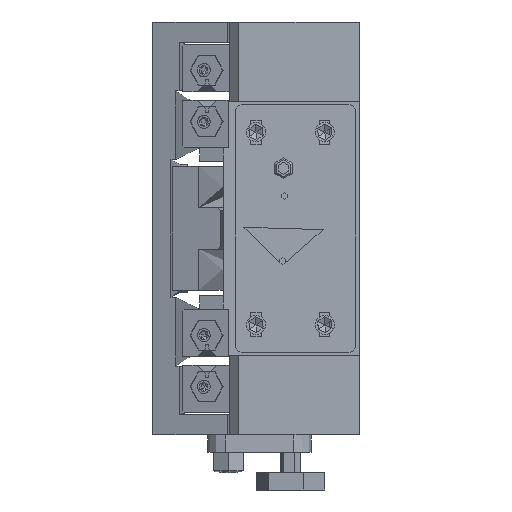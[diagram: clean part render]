
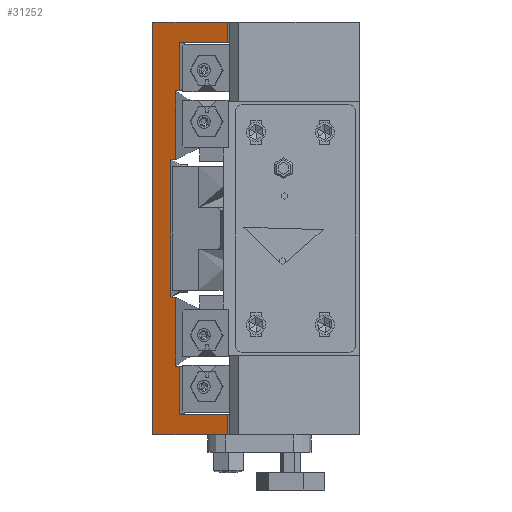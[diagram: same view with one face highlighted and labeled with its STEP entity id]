
A CAD part, left-side view. The second image highlights one B-rep face of the part: STEP entity #31252.
In plain terms, the highlighted planar face has unit normal (0.94, -0.342, 0).
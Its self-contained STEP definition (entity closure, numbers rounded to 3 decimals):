
#70 = VERTEX_POINT ( 'NONE', #30078 ) ;
#637 = VERTEX_POINT ( 'NONE', #25072 ) ;
#1989 = CARTESIAN_POINT ( 'NONE',  ( -65., 36., -60. ) ) ;
#2163 = ORIENTED_EDGE ( 'NONE', *, *, #17797, .T. ) ;
#2425 = CARTESIAN_POINT ( 'NONE',  ( -67.778, 28.366, 60. ) ) ;
#2587 = EDGE_CURVE ( 'NONE', #11139, #36357, #24567, .T. ) ;
#2947 = CARTESIAN_POINT ( 'NONE',  ( -67.778, 28.366, 60. ) ) ;
#3135 = EDGE_CURVE ( 'NONE', #37716, #15802, #35391, .T. ) ;
#3380 = EDGE_CURVE ( 'NONE', #36616, #70, #28302, .T. ) ;
#3924 = VECTOR ( 'NONE', #15659, 1000. ) ;
#4164 = CARTESIAN_POINT ( 'NONE',  ( -65., 36., 60. ) ) ;
#5543 = VECTOR ( 'NONE', #33723, 1000. ) ;
#5691 = ORIENTED_EDGE ( 'NONE', *, *, #19502, .T. ) ;
#5916 = CARTESIAN_POINT ( 'NONE',  ( -72.909, 14.271, 54. ) ) ;
#5921 = CARTESIAN_POINT ( 'NONE',  ( -66.923, 30.716, 20. ) ) ;
#6171 = CARTESIAN_POINT ( 'NONE',  ( -72.909, 14.271, -54. ) ) ;
#6390 = VECTOR ( 'NONE', #35892, 1000. ) ;
#6687 = CARTESIAN_POINT ( 'NONE',  ( -67.436, 29.306, 60. ) ) ;
#7461 = VECTOR ( 'NONE', #20201, 1000. ) ;
#8015 = CARTESIAN_POINT ( 'NONE',  ( -67.436, 29.306, 40. ) ) ;
#8755 = AXIS2_PLACEMENT_3D ( 'NONE', #43783, #40001, #19726 ) ;
#8850 = VECTOR ( 'NONE', #34069, 1000. ) ;
#8980 = VERTEX_POINT ( 'NONE', #38220 ) ;
#9150 = VECTOR ( 'NONE', #10205, 1000. ) ;
#9523 = CARTESIAN_POINT ( 'NONE',  ( -65., 36., 54. ) ) ;
#9733 = EDGE_CURVE ( 'NONE', #40430, #18713, #44354, .T. ) ;
#10045 = VECTOR ( 'NONE', #23154, 1000. ) ;
#10205 = DIRECTION ( 'NONE',  ( 0., 0., -1. ) ) ;
#10806 = VECTOR ( 'NONE', #11626, 1000. ) ;
#11112 = ORIENTED_EDGE ( 'NONE', *, *, #2587, .T. ) ;
#11139 = VERTEX_POINT ( 'NONE', #29316 ) ;
#11190 = DIRECTION ( 'NONE',  ( -0.342, -0.94, 0. ) ) ;
#11229 = VECTOR ( 'NONE', #11190, 1000. ) ;
#11234 = DIRECTION ( 'NONE',  ( -0.342, -0.94, 0. ) ) ;
#11626 = DIRECTION ( 'NONE',  ( 0., 0., -1. ) ) ;
#11889 = LINE ( 'NONE', #19010, #10806 ) ;
#12910 = EDGE_CURVE ( 'NONE', #18713, #8980, #18369, .T. ) ;
#14220 = VECTOR ( 'NONE', #21850, 1000. ) ;
#14386 = ORIENTED_EDGE ( 'NONE', *, *, #24722, .T. ) ;
#14446 = ORIENTED_EDGE ( 'NONE', *, *, #31332, .F. ) ;
#14783 = CARTESIAN_POINT ( 'NONE',  ( -72.909, 14.271, -60. ) ) ;
#14947 = CARTESIAN_POINT ( 'NONE',  ( -67.436, 29.306, 60. ) ) ;
#15611 = CARTESIAN_POINT ( 'NONE',  ( -67.436, 29.306, -20. ) ) ;
#15659 = DIRECTION ( 'NONE',  ( -0.342, -0.94, 0. ) ) ;
#15675 = ORIENTED_EDGE ( 'NONE', *, *, #33766, .T. ) ;
#15802 = VERTEX_POINT ( 'NONE', #22611 ) ;
#15809 = PLANE ( 'NONE',  #8755 ) ;
#16445 = ORIENTED_EDGE ( 'NONE', *, *, #3380, .T. ) ;
#17112 = EDGE_CURVE ( 'NONE', #40734, #22659, #34026, .T. ) ;
#17332 = CARTESIAN_POINT ( 'NONE',  ( -67.436, 29.306, 40. ) ) ;
#17515 = EDGE_CURVE ( 'NONE', #25325, #40430, #29654, .T. ) ;
#17715 = CARTESIAN_POINT ( 'NONE',  ( -65., 36., -54. ) ) ;
#17797 = EDGE_CURVE ( 'NONE', #36357, #31697, #22557, .T. ) ;
#18133 = DIRECTION ( 'NONE',  ( 0., 0., -1. ) ) ;
#18369 = LINE ( 'NONE', #6687, #9150 ) ;
#18600 = LINE ( 'NONE', #43474, #3924 ) ;
#18713 = VERTEX_POINT ( 'NONE', #15611 ) ;
#19010 = CARTESIAN_POINT ( 'NONE',  ( -72.909, 14.271, 60. ) ) ;
#19502 = EDGE_CURVE ( 'NONE', #40734, #43527, #42872, .T. ) ;
#19726 = DIRECTION ( 'NONE',  ( 0.342, 0.94, 0. ) ) ;
#20054 = CARTESIAN_POINT ( 'NONE',  ( -72.909, 14.271, 60. ) ) ;
#20060 = CARTESIAN_POINT ( 'NONE',  ( -66.923, 30.716, 20. ) ) ;
#20201 = DIRECTION ( 'NONE',  ( 0., 0., -1. ) ) ;
#20448 = VECTOR ( 'NONE', #41011, 1000. ) ;
#20454 = VECTOR ( 'NONE', #22569, 1000. ) ;
#20765 = VERTEX_POINT ( 'NONE', #14783 ) ;
#20926 = CARTESIAN_POINT ( 'NONE',  ( -67.778, 28.366, 40. ) ) ;
#21299 = ORIENTED_EDGE ( 'NONE', *, *, #9733, .T. ) ;
#21850 = DIRECTION ( 'NONE',  ( 0., 0., -1. ) ) ;
#22557 = LINE ( 'NONE', #17715, #11229 ) ;
#22569 = DIRECTION ( 'NONE',  ( -0.342, -0.94, 0. ) ) ;
#22611 = CARTESIAN_POINT ( 'NONE',  ( -72.909, 14.271, 60. ) ) ;
#22659 = VERTEX_POINT ( 'NONE', #20926 ) ;
#22961 = VECTOR ( 'NONE', #18133, 1000. ) ;
#23154 = DIRECTION ( 'NONE',  ( 0., 0., -1. ) ) ;
#23832 = EDGE_CURVE ( 'NONE', #25325, #43527, #25639, .T. ) ;
#24152 = ORIENTED_EDGE ( 'NONE', *, *, #30026, .T. ) ;
#24567 = LINE ( 'NONE', #2947, #27255 ) ;
#24722 = EDGE_CURVE ( 'NONE', #8980, #11139, #18600, .T. ) ;
#24963 = CARTESIAN_POINT ( 'NONE',  ( -65., 36., 60. ) ) ;
#25072 = CARTESIAN_POINT ( 'NONE',  ( -65., 36., -60. ) ) ;
#25325 = VERTEX_POINT ( 'NONE', #20060 ) ;
#25639 = LINE ( 'NONE', #5921, #8850 ) ;
#25842 = ORIENTED_EDGE ( 'NONE', *, *, #17515, .T. ) ;
#26644 = CARTESIAN_POINT ( 'NONE',  ( -66.923, 30.716, -20. ) ) ;
#27255 = VECTOR ( 'NONE', #30668, 1000. ) ;
#27347 = LINE ( 'NONE', #2425, #10045 ) ;
#27750 = EDGE_LOOP ( 'NONE', ( #2163, #32994, #14446, #44294, #29681, #24152, #16445, #15675, #29960, #5691, #32136, #25842, #21299, #40675, #14386, #11112 ) ) ;
#28302 = LINE ( 'NONE', #9523, #5543 ) ;
#28602 = LINE ( 'NONE', #20054, #7461 ) ;
#29232 = CARTESIAN_POINT ( 'NONE',  ( -66.923, 30.716, -20. ) ) ;
#29316 = CARTESIAN_POINT ( 'NONE',  ( -67.778, 28.366, -40. ) ) ;
#29654 = LINE ( 'NONE', #43884, #20448 ) ;
#29681 = ORIENTED_EDGE ( 'NONE', *, *, #3135, .T. ) ;
#29960 = ORIENTED_EDGE ( 'NONE', *, *, #17112, .F. ) ;
#30026 = EDGE_CURVE ( 'NONE', #15802, #36616, #11889, .T. ) ;
#30078 = CARTESIAN_POINT ( 'NONE',  ( -67.778, 28.366, 54. ) ) ;
#30350 = EDGE_CURVE ( 'NONE', #31697, #20765, #28602, .T. ) ;
#30668 = DIRECTION ( 'NONE',  ( 0., 0., -1. ) ) ;
#31242 = CARTESIAN_POINT ( 'NONE',  ( -65., 36., 60. ) ) ;
#31252 = ADVANCED_FACE ( 'NONE', ( #42655 ), #15809, .T. ) ;
#31332 = EDGE_CURVE ( 'NONE', #637, #20765, #43744, .T. ) ;
#31697 = VERTEX_POINT ( 'NONE', #6171 ) ;
#32136 = ORIENTED_EDGE ( 'NONE', *, *, #23832, .F. ) ;
#32994 = ORIENTED_EDGE ( 'NONE', *, *, #30350, .T. ) ;
#33723 = DIRECTION ( 'NONE',  ( 0.342, 0.94, 0. ) ) ;
#33766 = EDGE_CURVE ( 'NONE', #70, #22659, #27347, .T. ) ;
#34026 = LINE ( 'NONE', #17332, #36733 ) ;
#34069 = DIRECTION ( 'NONE',  ( -0.342, -0.94, 0. ) ) ;
#35391 = LINE ( 'NONE', #24963, #44057 ) ;
#35892 = DIRECTION ( 'NONE',  ( -0.342, -0.94, 0. ) ) ;
#35946 = LINE ( 'NONE', #4164, #22961 ) ;
#36205 = CARTESIAN_POINT ( 'NONE',  ( -67.436, 29.306, 20. ) ) ;
#36357 = VERTEX_POINT ( 'NONE', #38365 ) ;
#36616 = VERTEX_POINT ( 'NONE', #5916 ) ;
#36733 = VECTOR ( 'NONE', #41546, 1000. ) ;
#37251 = EDGE_CURVE ( 'NONE', #37716, #637, #35946, .T. ) ;
#37716 = VERTEX_POINT ( 'NONE', #31242 ) ;
#38220 = CARTESIAN_POINT ( 'NONE',  ( -67.436, 29.306, -40. ) ) ;
#38365 = CARTESIAN_POINT ( 'NONE',  ( -67.778, 28.366, -54. ) ) ;
#40001 = DIRECTION ( 'NONE',  ( 0.94, -0.342, 0. ) ) ;
#40430 = VERTEX_POINT ( 'NONE', #26644 ) ;
#40675 = ORIENTED_EDGE ( 'NONE', *, *, #12910, .T. ) ;
#40734 = VERTEX_POINT ( 'NONE', #8015 ) ;
#41011 = DIRECTION ( 'NONE',  ( 0., 0., -1. ) ) ;
#41546 = DIRECTION ( 'NONE',  ( -0.342, -0.94, 0. ) ) ;
#42655 = FACE_OUTER_BOUND ( 'NONE', #27750, .T. ) ;
#42872 = LINE ( 'NONE', #14947, #14220 ) ;
#43474 = CARTESIAN_POINT ( 'NONE',  ( -67.436, 29.306, -40. ) ) ;
#43527 = VERTEX_POINT ( 'NONE', #36205 ) ;
#43744 = LINE ( 'NONE', #1989, #20454 ) ;
#43783 = CARTESIAN_POINT ( 'NONE',  ( -65., 36., 60. ) ) ;
#43884 = CARTESIAN_POINT ( 'NONE',  ( -66.923, 30.716, 60. ) ) ;
#44057 = VECTOR ( 'NONE', #11234, 1000. ) ;
#44294 = ORIENTED_EDGE ( 'NONE', *, *, #37251, .F. ) ;
#44354 = LINE ( 'NONE', #29232, #6390 ) ;
